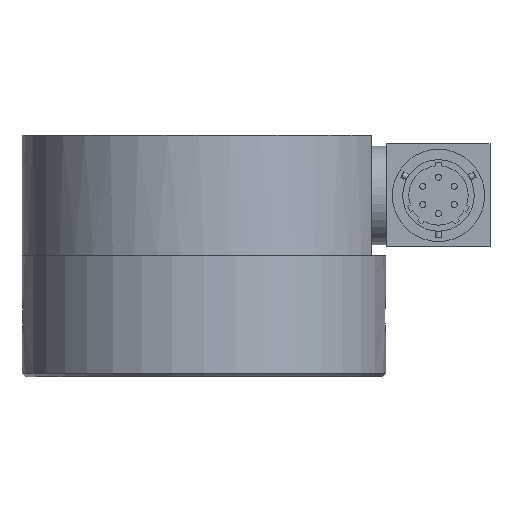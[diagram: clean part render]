
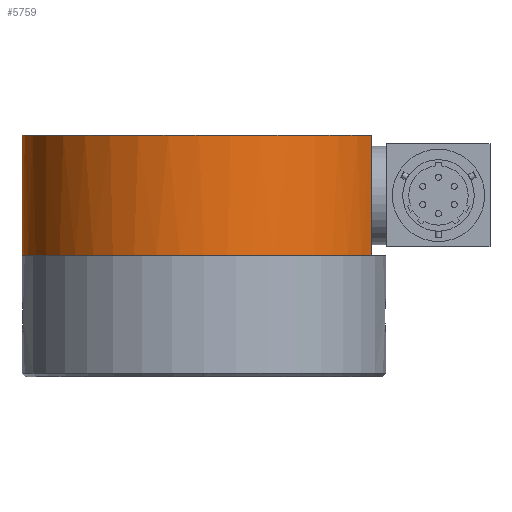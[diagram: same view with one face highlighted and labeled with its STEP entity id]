
A CAD part, front view. The second image highlights one B-rep face of the part: STEP entity #5759.
In plain terms, the highlighted cylindrical face has radius 38.1 mm (diameter 76.2 mm), a partial arc.
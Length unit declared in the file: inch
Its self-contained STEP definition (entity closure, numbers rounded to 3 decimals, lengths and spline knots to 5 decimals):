
#804 = EDGE_LOOP ( 'NONE', ( #5696, #4559, #3476, #2394 ) ) ;
#2230 = EDGE_CURVE ( 'NONE', #2896, #5278, #2373, .T. ) ;
#2373 = LINE ( 'NONE', #2374, #2375 ) ;
#2374 = CARTESIAN_POINT ( 'NONE',  ( 1.384, -0.5784, 0.995 ) ) ;
#2375 = VECTOR ( 'NONE', #2378, 39.37008 ) ;
#2378 = DIRECTION ( 'NONE',  ( 0., 0., 1. ) ) ;
#2394 = ORIENTED_EDGE ( 'NONE', *, *, #2230, .T. ) ;
#2896 = VERTEX_POINT ( 'NONE', #2907 ) ;
#2907 = CARTESIAN_POINT ( 'NONE',  ( 1.384, -0.5784, 0. ) ) ;
#3066 = CIRCLE ( 'NONE', #3067, 1.5 ) ;
#3067 = AXIS2_PLACEMENT_3D ( 'NONE', #3068, #3069, #3070 ) ;
#3068 = CARTESIAN_POINT ( 'NONE',  ( 0., 0., 0. ) ) ;
#3069 = DIRECTION ( 'NONE',  ( 0., 0., 1. ) ) ;
#3070 = DIRECTION ( 'NONE',  ( -1., 0., 0. ) ) ;
#3114 = EDGE_CURVE ( 'NONE', #3981, #2896, #3066, .T. ) ;
#3476 = ORIENTED_EDGE ( 'NONE', *, *, #3114, .T. ) ;
#3981 = VERTEX_POINT ( 'NONE', #4010 ) ;
#4010 = CARTESIAN_POINT ( 'NONE',  ( -1.5, 0., 0. ) ) ;
#4145 = LINE ( 'NONE', #4146, #4147 ) ;
#4146 = CARTESIAN_POINT ( 'NONE',  ( -1.5, 0., 0.995 ) ) ;
#4147 = VECTOR ( 'NONE', #4148, 39.37008 ) ;
#4148 = DIRECTION ( 'NONE',  ( 0., 0., -1. ) ) ;
#4195 = EDGE_CURVE ( 'NONE', #5068, #3981, #4145, .T. ) ;
#4559 = ORIENTED_EDGE ( 'NONE', *, *, #4195, .T. ) ;
#4717 = CARTESIAN_POINT ( 'NONE',  ( -1.5, 0., 0.995 ) ) ;
#4773 = CARTESIAN_POINT ( 'NONE',  ( 1.384, -0.5784, 0.995 ) ) ;
#4853 = CIRCLE ( 'NONE', #4854, 1.5 ) ;
#4854 = AXIS2_PLACEMENT_3D ( 'NONE', #4855, #4856, #4857 ) ;
#4855 = CARTESIAN_POINT ( 'NONE',  ( 0., 0., 0.995 ) ) ;
#4856 = DIRECTION ( 'NONE',  ( 0., 0., -1. ) ) ;
#4857 = DIRECTION ( 'NONE',  ( -1., 0., 0. ) ) ;
#5068 = VERTEX_POINT ( 'NONE', #4717 ) ;
#5243 = FACE_OUTER_BOUND ( 'NONE', #804, .T. ) ;
#5244 = CYLINDRICAL_SURFACE ( 'NONE', #5245, 1.5 ) ;
#5245 = AXIS2_PLACEMENT_3D ( 'NONE', #5246, #5247, #5248 ) ;
#5246 = CARTESIAN_POINT ( 'NONE',  ( 0., 0., 0.995 ) ) ;
#5247 = DIRECTION ( 'NONE',  ( 0., 0., -1. ) ) ;
#5248 = DIRECTION ( 'NONE',  ( -1., 0., 0. ) ) ;
#5278 = VERTEX_POINT ( 'NONE', #4773 ) ;
#5494 = EDGE_CURVE ( 'NONE', #5278, #5068, #4853, .T. ) ;
#5696 = ORIENTED_EDGE ( 'NONE', *, *, #5494, .T. ) ;
#5759 = ADVANCED_FACE ( 'NONE', ( #5243 ), #5244, .T. ) ;
